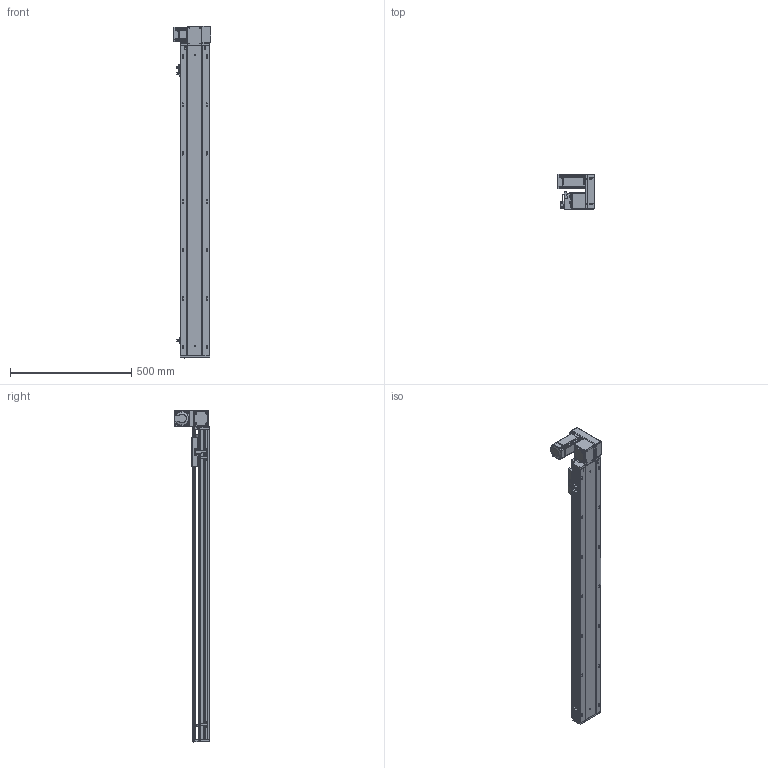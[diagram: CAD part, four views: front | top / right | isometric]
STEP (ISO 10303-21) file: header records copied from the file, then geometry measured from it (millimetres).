
FILE_DESCRIPTION (( 'STEP AP203' ), '1' );
FILE_NAME ('RY120-T-300-UR.SLDASM_1050.step', '2021-03-01T05:56:45', ( '盈信电脑' ), ( '东莞市道滘镇水果街19号' ), 'SwSTEP 2.0', 'SolidWorks 2012', '' );
FILE_SCHEMA (( 'CONFIG_CONTROL_DESIGN' ));
Length unit declared in the file: millimetre
Products named in the file (17): RY120-T萇儂欶; 15; RY120-T蹟翐M4; RY120-T翋肮祭謫裔啣; 滅袉蝶18-10; RY120-T萇儂假蚾啣; RY120-T肮祭湍揤踡輸1; RY120外置感应片(140共用）; RY120-T翋肮祭盓傅釱; RY120-T肮祭湍揤踡輸2; RY120肮祭湍臏賑輸; 覜茼ん672; RY120綴裔啣; RY120-T-300-UR倰第菁釱_1050; RY120-T-300-UR倰第奻裔啣_1050; RY120-T-300-UR.SLDASM_1050; RY120-T主同步轮轴承压盖
Assembly tree (22 placements, depth 2):
  RY120-T-300-UR.SLDASM_1050
    RY120-T-300-UR倰第菁釱_1050
    RY120-T-300-UR倰第奻裔啣_1050
    RY120肮祭湍臏賑輸
    RY120綴裔啣
    覜茼ん672  x3
    RY120外置感应片(140共用）
    RY120-T肮祭湍揤踡輸1
    RY120-T肮祭湍揤踡輸2
    RY120-T翋肮祭盓傅釱
    RY120-T萇儂假蚾啣
    滅袉蝶18-10  x2
    RY120-T翋肮祭謫裔啣
    15
    RY120-T蹟翐M4  x4
    RY120-T萇儂欶
    RY120-T主同步轮轴承压盖
Bounding box: 155.5 x 146 x 1371 mm (x, y, z)
Volume: 3727245.8 mm3; surface area: 1393716.4 mm2
Topology: 23 solids, 23 shells, 2824 faces, 7692 edges, 4928 vertices
Faces by surface type: plane 1416, cylinder 1066, cone 253, bspline 89
Entity records: 89641 total; most frequent: CARTESIAN_POINT 22686, ORIENTED_EDGE 13800, DIRECTION 13086, EDGE_CURVE 6900, VERTEX_POINT 4515, AXIS2_PLACEMENT_3D 4383, LINE 4320, VECTOR 4320
